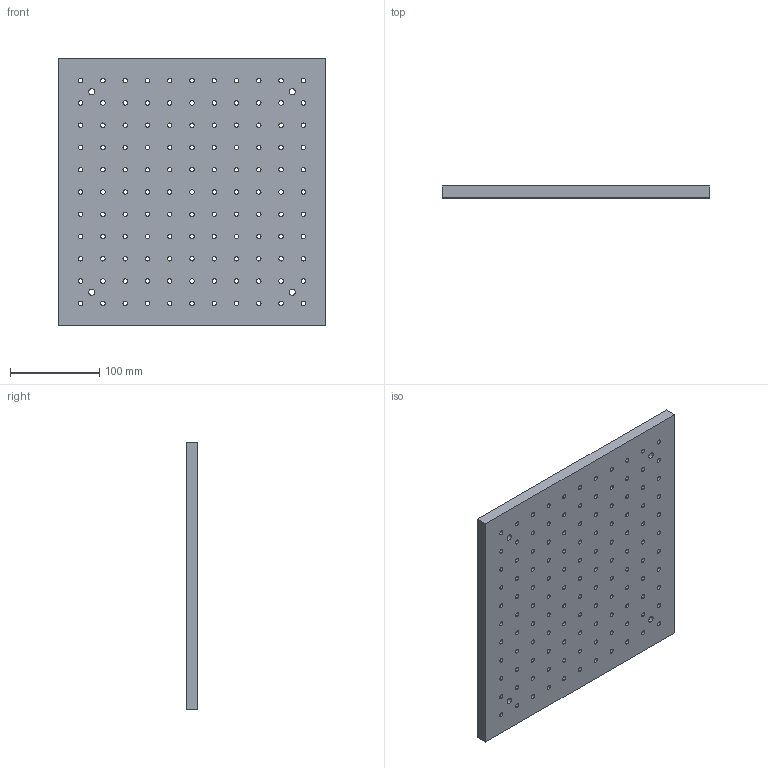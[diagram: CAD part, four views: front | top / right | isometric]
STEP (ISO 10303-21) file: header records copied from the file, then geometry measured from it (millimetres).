
FILE_DESCRIPTION (( 'STEP AP203' ), '1' );
FILE_NAME ('OTSB3030-13(AP203).STEP', '2022-02-28T08:52:26', ( '' ), ( '' ), 'SwSTEP 2.0', 'SolidWorks 2021', '' );
FILE_SCHEMA (( 'CONFIG_CONTROL_DESIGN' ));
Length unit declared in the file: millimetre
Products named in the file (1): OTSB3030-13(AP203)
Bounding box: 300 x 13.05 x 300 mm (x, y, z)
Volume: 1135545.2 mm3; surface area: 217379.6 mm2
Topology: 11 solids, 11 shells, 428 faces, 1206 edges, 804 vertices
Faces by surface type: cylinder 258, plane 170
Entity records: 14603 total; most frequent: DIRECTION 2580, CARTESIAN_POINT 2439, ORIENTED_EDGE 2412, EDGE_CURVE 1206, AXIS2_PLACEMENT_3D 945, VERTEX_POINT 804, LINE 690, VECTOR 690
